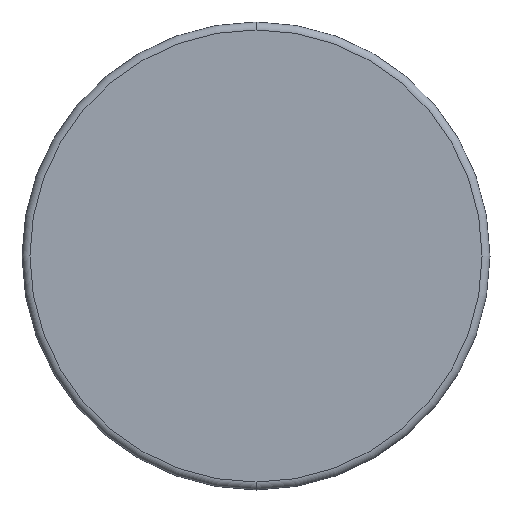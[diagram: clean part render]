
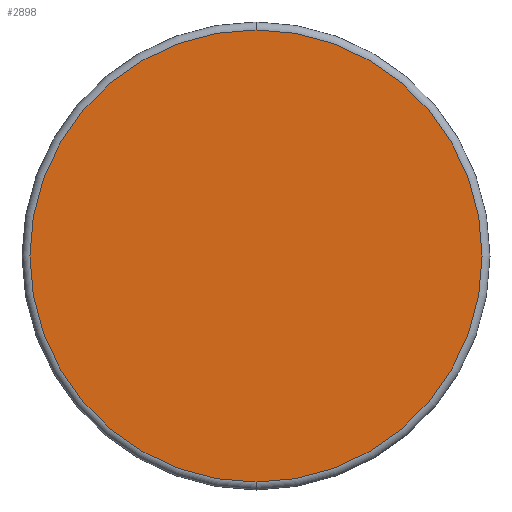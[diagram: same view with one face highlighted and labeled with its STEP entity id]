
A CAD part, front view. The second image highlights one B-rep face of the part: STEP entity #2898.
In plain terms, the highlighted planar face has unit normal (0, -1, 0).
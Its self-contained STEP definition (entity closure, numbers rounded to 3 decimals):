
#8 = DIRECTION ( 'NONE',  ( 0., 0., -1. ) ) ;
#153 = EDGE_LOOP ( 'NONE', ( #4408, #1545 ) ) ;
#177 = DIRECTION ( 'NONE',  ( 0., -1., 0. ) ) ;
#365 = DIRECTION ( 'NONE',  ( 0., -1., 0. ) ) ;
#541 = AXIS2_PLACEMENT_3D ( 'NONE', #3901, #177, #1338 ) ;
#663 = DIRECTION ( 'NONE',  ( 0., 0., -1. ) ) ;
#713 = CARTESIAN_POINT ( 'NONE',  ( 0., 0., 0. ) ) ;
#837 = EDGE_CURVE ( 'NONE', #2376, #3005, #2592, .T. ) ;
#1203 = EDGE_CURVE ( 'NONE', #3005, #2376, #1805, .T. ) ;
#1338 = DIRECTION ( 'NONE',  ( 0., 0., -1. ) ) ;
#1373 = CARTESIAN_POINT ( 'NONE',  ( 0., 0., 28.474 ) ) ;
#1545 = ORIENTED_EDGE ( 'NONE', *, *, #1203, .T. ) ;
#1761 = FACE_OUTER_BOUND ( 'NONE', #153, .T. ) ;
#1805 = CIRCLE ( 'NONE', #4719, 28.474 ) ;
#2376 = VERTEX_POINT ( 'NONE', #1373 ) ;
#2592 = CIRCLE ( 'NONE', #541, 28.474 ) ;
#2898 = ADVANCED_FACE ( 'NONE', ( #1761 ), #4085, .T. ) ;
#3005 = VERTEX_POINT ( 'NONE', #4657 ) ;
#3370 = DIRECTION ( 'NONE',  ( 0., -1., 0. ) ) ;
#3728 = CARTESIAN_POINT ( 'NONE',  ( 0., 0., 0. ) ) ;
#3901 = CARTESIAN_POINT ( 'NONE',  ( 0., 0., 0. ) ) ;
#4085 = PLANE ( 'NONE',  #4210 ) ;
#4210 = AXIS2_PLACEMENT_3D ( 'NONE', #713, #3370, #663 ) ;
#4408 = ORIENTED_EDGE ( 'NONE', *, *, #837, .T. ) ;
#4657 = CARTESIAN_POINT ( 'NONE',  ( 0., 0., -28.474 ) ) ;
#4719 = AXIS2_PLACEMENT_3D ( 'NONE', #3728, #365, #8 ) ;
